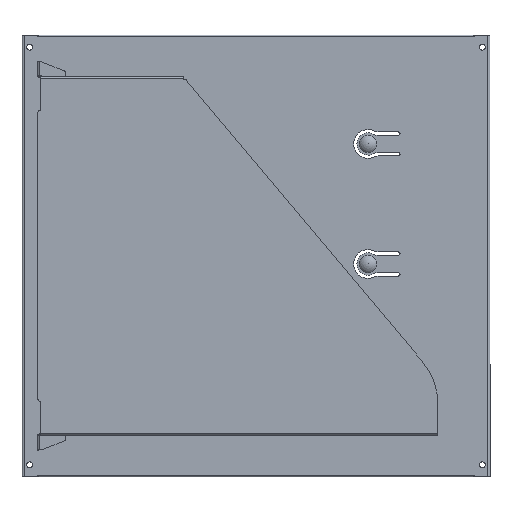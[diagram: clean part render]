
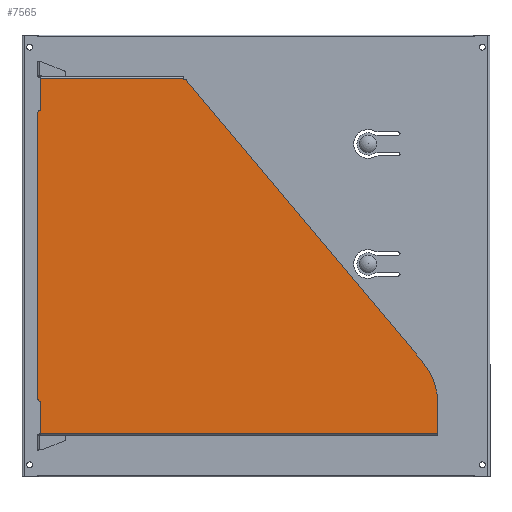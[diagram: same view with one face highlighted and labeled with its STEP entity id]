
A CAD part, top view. The second image highlights one B-rep face of the part: STEP entity #7565.
In plain terms, the highlighted planar face has unit normal (0, 0, 1) as drawn and (0, 1, 0) by its records, which use the part's own axes.
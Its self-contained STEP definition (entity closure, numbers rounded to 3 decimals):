
#218 = VECTOR ( 'NONE', #10178, 1000. ) ;
#296 = VERTEX_POINT ( 'NONE', #2014 ) ;
#498 = VERTEX_POINT ( 'NONE', #2993 ) ;
#586 = ORIENTED_EDGE ( 'NONE', *, *, #5599, .F. ) ;
#588 = DIRECTION ( 'NONE',  ( 0., 1., 0. ) ) ;
#726 = CARTESIAN_POINT ( 'NONE',  ( 181.5, 24., 250. ) ) ;
#858 = CARTESIAN_POINT ( 'NONE',  ( 184., 24., -250. ) ) ;
#874 = VECTOR ( 'NONE', #18082, 1000. ) ;
#915 = VECTOR ( 'NONE', #18209, 1000. ) ;
#1028 = DIRECTION ( 'NONE',  ( 0., 0., -1. ) ) ;
#1212 = EDGE_CURVE ( 'NONE', #14703, #14527, #4810, .T. ) ;
#1247 = VERTEX_POINT ( 'NONE', #12893 ) ;
#1272 = DIRECTION ( 'NONE',  ( 1., 0., 0. ) ) ;
#1340 = EDGE_CURVE ( 'NONE', #14875, #7412, #17393, .T. ) ;
#1347 = ORIENTED_EDGE ( 'NONE', *, *, #1212, .F. ) ;
#1566 = CIRCLE ( 'NONE', #6839, 3. ) ;
#1572 = CIRCLE ( 'NONE', #7366, 3. ) ;
#1656 = DIRECTION ( 'NONE',  ( 0., 1., 0. ) ) ;
#1958 = EDGE_CURVE ( 'NONE', #498, #13959, #8064, .T. ) ;
#2014 = CARTESIAN_POINT ( 'NONE',  ( -219.678, 24., 64.294 ) ) ;
#2062 = ORIENTED_EDGE ( 'NONE', *, *, #1958, .T. ) ;
#2145 = CARTESIAN_POINT ( 'NONE',  ( 132.577, 24., -231.284 ) ) ;
#2885 = ORIENTED_EDGE ( 'NONE', *, *, #10266, .T. ) ;
#2946 = CARTESIAN_POINT ( 'NONE',  ( 221.5, 24., -250. ) ) ;
#2993 = CARTESIAN_POINT ( 'NONE',  ( -178.5, 24., 250. ) ) ;
#3211 = CARTESIAN_POINT ( 'NONE',  ( -220.75, 24., 67.92 ) ) ;
#3294 = DIRECTION ( 'NONE',  ( 0., 0., 1. ) ) ;
#3707 = CARTESIAN_POINT ( 'NONE',  ( -221.5, 24., 250. ) ) ;
#3733 = CARTESIAN_POINT ( 'NONE',  ( -181.5, 24., 246.9 ) ) ;
#3841 = DIRECTION ( 'NONE',  ( -1., 0., 0. ) ) ;
#3846 = DIRECTION ( 'NONE',  ( 0., 0., 1. ) ) ;
#3934 = LINE ( 'NONE', #6815, #874 ) ;
#4003 = DIRECTION ( 'NONE',  ( 1., 0., 0. ) ) ;
#4071 = CARTESIAN_POINT ( 'NONE',  ( -181.5, 24., 247. ) ) ;
#4262 = ORIENTED_EDGE ( 'NONE', *, *, #1340, .F. ) ;
#4308 = VECTOR ( 'NONE', #5071, 1000. ) ;
#4419 = CARTESIAN_POINT ( 'NONE',  ( -221.5, 24., 67.92 ) ) ;
#4702 = LINE ( 'NONE', #726, #16025 ) ;
#4810 = LINE ( 'NONE', #20884, #4308 ) ;
#5018 = LINE ( 'NONE', #15066, #218 ) ;
#5039 = VECTOR ( 'NONE', #4003, 1000. ) ;
#5071 = DIRECTION ( 'NONE',  ( 0., 0., -1. ) ) ;
#5191 = VECTOR ( 'NONE', #6657, 1000. ) ;
#5420 = CARTESIAN_POINT ( 'NONE',  ( -220.75, 24., 66.592 ) ) ;
#5541 = ORIENTED_EDGE ( 'NONE', *, *, #6143, .F. ) ;
#5599 = EDGE_CURVE ( 'NONE', #12311, #14875, #11024, .T. ) ;
#5729 = CARTESIAN_POINT ( 'NONE',  ( -224., 24., 250. ) ) ;
#5767 = EDGE_CURVE ( 'NONE', #6796, #16438, #4702, .T. ) ;
#6143 = EDGE_CURVE ( 'NONE', #7412, #20547, #20094, .T. ) ;
#6391 = LINE ( 'NONE', #10204, #8440 ) ;
#6467 = ORIENTED_EDGE ( 'NONE', *, *, #7484, .F. ) ;
#6657 = DIRECTION ( 'NONE',  ( 0., 0., -1. ) ) ;
#6700 = EDGE_CURVE ( 'NONE', #296, #8216, #3934, .T. ) ;
#6796 = VERTEX_POINT ( 'NONE', #17942 ) ;
#6815 = CARTESIAN_POINT ( 'NONE',  ( -313.657, 24., 143.151 ) ) ;
#6839 = AXIS2_PLACEMENT_3D ( 'NONE', #15011, #588, #10053 ) ;
#7366 = AXIS2_PLACEMENT_3D ( 'NONE', #17531, #7887, #12825 ) ;
#7378 = VECTOR ( 'NONE', #1028, 1000. ) ;
#7412 = VERTEX_POINT ( 'NONE', #3211 ) ;
#7484 = EDGE_CURVE ( 'NONE', #14527, #12311, #6391, .T. ) ;
#7565 = ADVANCED_FACE ( 'NONE', ( #9972 ), #8349, .T. ) ;
#7887 = DIRECTION ( 'NONE',  ( 0., 1., 0. ) ) ;
#8031 = CARTESIAN_POINT ( 'NONE',  ( 181.5, 24., 247. ) ) ;
#8064 = LINE ( 'NONE', #5729, #5039 ) ;
#8216 = VERTEX_POINT ( 'NONE', #2145 ) ;
#8349 = PLANE ( 'NONE',  #8817 ) ;
#8440 = VECTOR ( 'NONE', #3841, 1000. ) ;
#8817 = AXIS2_PLACEMENT_3D ( 'NONE', #10133, #19632, #19919 ) ;
#9139 = EDGE_CURVE ( 'NONE', #13959, #16438, #1566, .T. ) ;
#9363 = ORIENTED_EDGE ( 'NONE', *, *, #15447, .F. ) ;
#9437 = DIRECTION ( 'NONE',  ( 0., -1., 0. ) ) ;
#9669 = CARTESIAN_POINT ( 'NONE',  ( -224., 24., 67.92 ) ) ;
#9734 = ORIENTED_EDGE ( 'NONE', *, *, #18870, .F. ) ;
#9972 = FACE_OUTER_BOUND ( 'NONE', #14330, .T. ) ;
#10053 = DIRECTION ( 'NONE',  ( 0., 0., 1. ) ) ;
#10133 = CARTESIAN_POINT ( 'NONE',  ( -224., 24., 250. ) ) ;
#10178 = DIRECTION ( 'NONE',  ( -1., 0., 0. ) ) ;
#10204 = CARTESIAN_POINT ( 'NONE',  ( -224., 24., 246.9 ) ) ;
#10266 = EDGE_CURVE ( 'NONE', #1247, #19449, #18218, .T. ) ;
#10577 = CARTESIAN_POINT ( 'NONE',  ( 178.5, 24., 250. ) ) ;
#10674 = ORIENTED_EDGE ( 'NONE', *, *, #19734, .T. ) ;
#11024 = LINE ( 'NONE', #3707, #915 ) ;
#11052 = CARTESIAN_POINT ( 'NONE',  ( 184., 24., -170. ) ) ;
#12108 = ORIENTED_EDGE ( 'NONE', *, *, #5767, .F. ) ;
#12117 = CARTESIAN_POINT ( 'NONE',  ( 221.5, 24., 250. ) ) ;
#12194 = EDGE_CURVE ( 'NONE', #1247, #6796, #5018, .T. ) ;
#12311 = VERTEX_POINT ( 'NONE', #18028 ) ;
#12825 = DIRECTION ( 'NONE',  ( 0., 0., 1. ) ) ;
#12893 = CARTESIAN_POINT ( 'NONE',  ( 221.5, 24., 246.9 ) ) ;
#12987 = VERTEX_POINT ( 'NONE', #858 ) ;
#13027 = LINE ( 'NONE', #14249, #14771 ) ;
#13432 = ORIENTED_EDGE ( 'NONE', *, *, #9139, .T. ) ;
#13959 = VERTEX_POINT ( 'NONE', #10577 ) ;
#14249 = CARTESIAN_POINT ( 'NONE',  ( -224., 24., -250. ) ) ;
#14330 = EDGE_LOOP ( 'NONE', ( #20287, #10674, #5541, #4262, #586, #6467, #1347, #17955, #2062, #13432, #12108, #15529, #2885, #9363, #9734 ) ) ;
#14527 = VERTEX_POINT ( 'NONE', #3733 ) ;
#14685 = CARTESIAN_POINT ( 'NONE',  ( -220.75, 24., 250. ) ) ;
#14703 = VERTEX_POINT ( 'NONE', #4071 ) ;
#14765 = DIRECTION ( 'NONE',  ( 0., 0., 1. ) ) ;
#14771 = VECTOR ( 'NONE', #1272, 1000. ) ;
#14875 = VERTEX_POINT ( 'NONE', #4419 ) ;
#15011 = CARTESIAN_POINT ( 'NONE',  ( 178.5, 24., 247. ) ) ;
#15066 = CARTESIAN_POINT ( 'NONE',  ( -224., 24., 246.9 ) ) ;
#15447 = EDGE_CURVE ( 'NONE', #12987, #19449, #13027, .T. ) ;
#15529 = ORIENTED_EDGE ( 'NONE', *, *, #12194, .F. ) ;
#15601 = AXIS2_PLACEMENT_3D ( 'NONE', #16095, #1656, #3294 ) ;
#16025 = VECTOR ( 'NONE', #3846, 1000. ) ;
#16095 = CARTESIAN_POINT ( 'NONE',  ( -217.75, 24., 66.592 ) ) ;
#16185 = DIRECTION ( 'NONE',  ( 1., 0., 0. ) ) ;
#16438 = VERTEX_POINT ( 'NONE', #8031 ) ;
#17393 = LINE ( 'NONE', #9669, #20714 ) ;
#17531 = CARTESIAN_POINT ( 'NONE',  ( -178.5, 24., 247. ) ) ;
#17942 = CARTESIAN_POINT ( 'NONE',  ( 181.5, 24., 246.9 ) ) ;
#17955 = ORIENTED_EDGE ( 'NONE', *, *, #18237, .T. ) ;
#18028 = CARTESIAN_POINT ( 'NONE',  ( -221.5, 24., 246.9 ) ) ;
#18082 = DIRECTION ( 'NONE',  ( 0.766, 0., -0.643 ) ) ;
#18209 = DIRECTION ( 'NONE',  ( 0., 0., -1. ) ) ;
#18218 = LINE ( 'NONE', #12117, #7378 ) ;
#18237 = EDGE_CURVE ( 'NONE', #14703, #498, #1572, .T. ) ;
#18416 = CIRCLE ( 'NONE', #15601, 3. ) ;
#18870 = EDGE_CURVE ( 'NONE', #8216, #12987, #20007, .T. ) ;
#19449 = VERTEX_POINT ( 'NONE', #2946 ) ;
#19632 = DIRECTION ( 'NONE',  ( 0., 1., 0. ) ) ;
#19667 = AXIS2_PLACEMENT_3D ( 'NONE', #11052, #9437, #14765 ) ;
#19734 = EDGE_CURVE ( 'NONE', #296, #20547, #18416, .T. ) ;
#19919 = DIRECTION ( 'NONE',  ( 0., 0., 1. ) ) ;
#20007 = CIRCLE ( 'NONE', #19667, 80. ) ;
#20094 = LINE ( 'NONE', #14685, #5191 ) ;
#20287 = ORIENTED_EDGE ( 'NONE', *, *, #6700, .F. ) ;
#20547 = VERTEX_POINT ( 'NONE', #5420 ) ;
#20714 = VECTOR ( 'NONE', #16185, 1000. ) ;
#20884 = CARTESIAN_POINT ( 'NONE',  ( -181.5, 24., 246.9 ) ) ;
